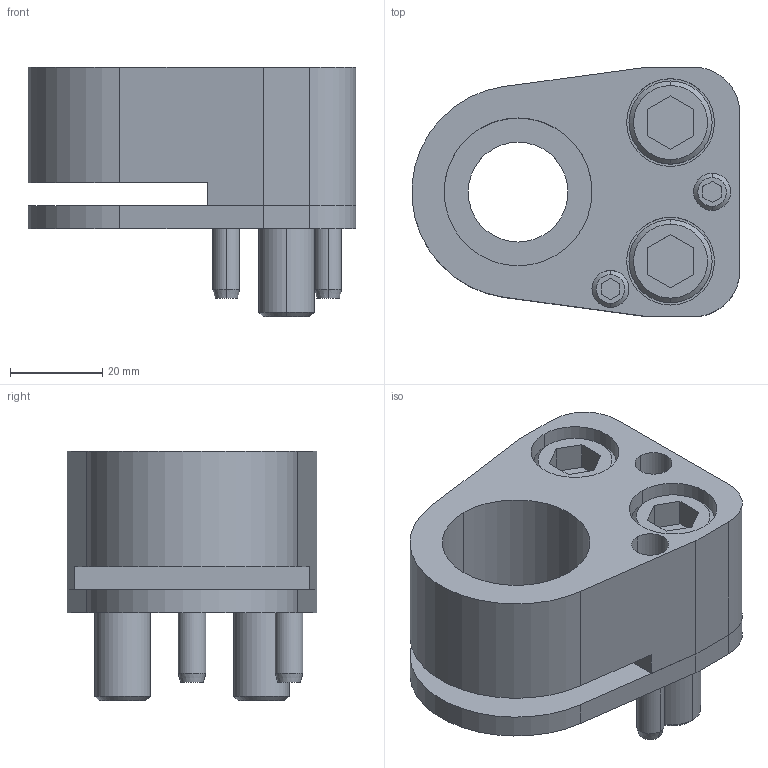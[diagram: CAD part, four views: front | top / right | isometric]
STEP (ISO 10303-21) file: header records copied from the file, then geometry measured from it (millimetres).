
FILE_DESCRIPTION(/* description */ (''),/* implementation_level */ '2;1');
FILE_NAME(/* name */ '3d_dp-fd32_02839_r00.stp',/* time_stamp */ '2011-01-10T14:15:56+09:00',/* author */ ('MISUMI'),/* organization */ (''),/* preprocessor_version */ 'ST-DEVELOPER v11',/* originating_system */ 'UGS - NX 5.0',/* authorisation */ '');
FILE_SCHEMA (('CONFIG_CONTROL_DESIGN'));
Length unit declared in the file: millimetre
Products named in the file (1): 3d_dp-fd32_02839_r00
Bounding box: 70.92 x 54 x 54 mm (x, y, z)
Volume: 84240.6 mm3; surface area: 32172.4 mm2
Topology: 8 solids, 8 shells, 154 faces, 350 edges, 225 vertices
Faces by surface type: plane 68, cylinder 60, cone 26
Entity records: 4500 total; most frequent: DIRECTION 802, CARTESIAN_POINT 787, ORIENTED_EDGE 700, EDGE_CURVE 350, AXIS2_PLACEMENT_3D 302, VERTEX_POINT 225, LINE 198, VECTOR 198
